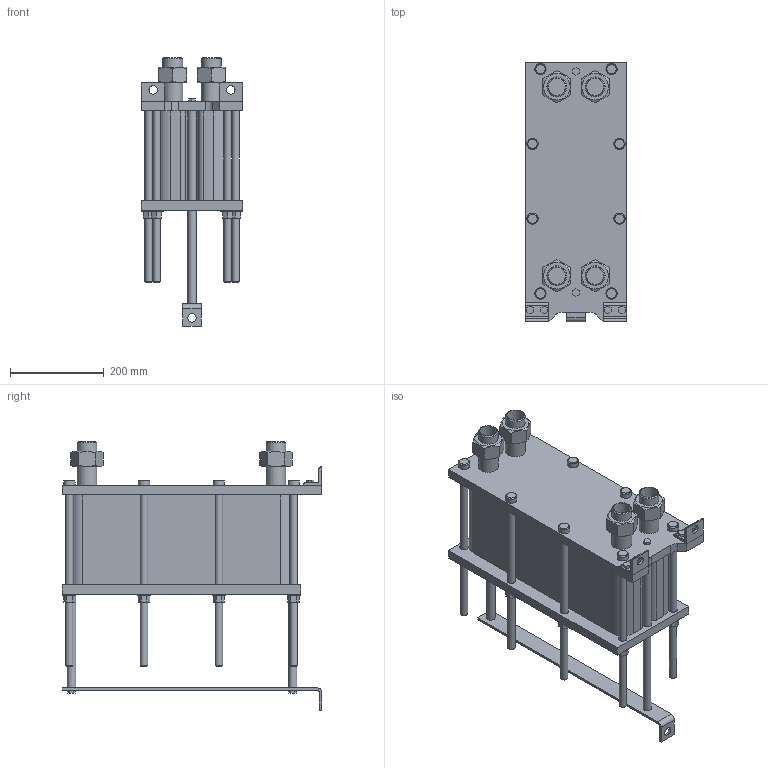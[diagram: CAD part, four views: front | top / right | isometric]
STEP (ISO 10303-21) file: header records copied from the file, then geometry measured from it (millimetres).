
FILE_DESCRIPTION(/* description */ (''),/* implementation_level */ '2;1');
FILE_NAME(/* name */ 'C:\Users\zhuro\Desktop\ENCO\TO\ЭН-004\ЭН-0,5-004-62-1.stp',/* time_stamp */ '2022-06-06T10:48:17+03:00',/* author */ ('zhuro'),/* organization */ (''),/* preprocessor_version */ 'ST-DEVELOPER v18.1',/* originating_system */ 'Autodesk Inventor 2022',/* authorisation */ '');
FILE_SCHEMA (('AUTOMOTIVE_DESIGN { 1 0 10303 214 3 1 1 }'));
Length unit declared in the file: millimetre
Products named in the file (1): ЭН-0,5-004-62-1
Bounding box: 216 x 555 x 574.6 mm (x, y, z)
Volume: 20035392.2 mm3; surface area: 1375054.2 mm2
Topology: 40 solids, 40 shells, 403 faces, 865 edges, 574 vertices
Faces by surface type: plane 272, cylinder 103, cone 28
Full cylindrical faces by diameter (mm): 10 x4, 16 x16, 18 x29, 20 x2, 24 x8, 28 x8, 36.3 x5, 42.3 x9
Entity records: 11137 total; most frequent: CARTESIAN_POINT 1939, DIRECTION 1879, ORIENTED_EDGE 1730, EDGE_CURVE 865, AXIS2_PLACEMENT_3D 658, VERTEX_POINT 574, LINE 563, VECTOR 563
